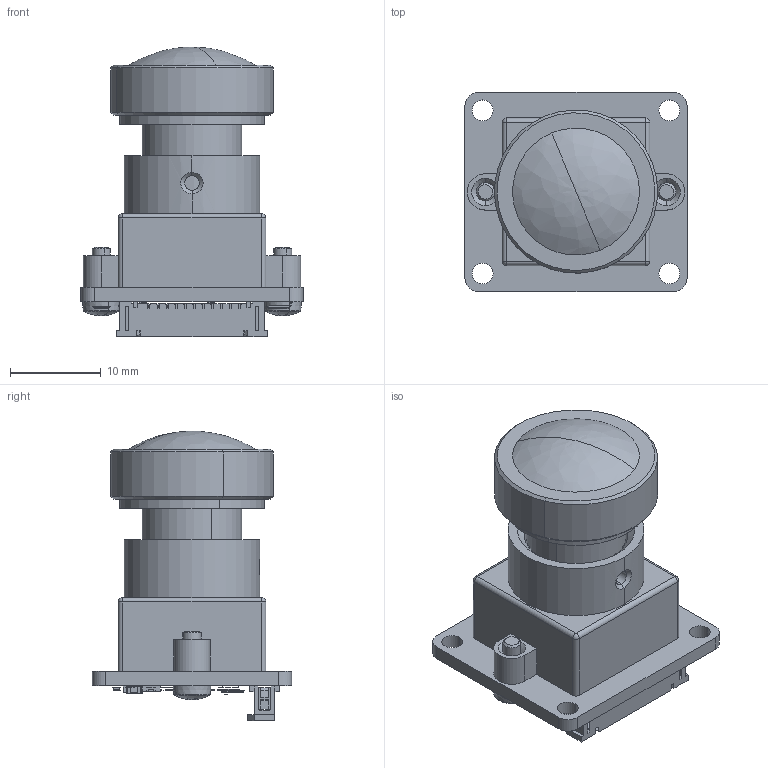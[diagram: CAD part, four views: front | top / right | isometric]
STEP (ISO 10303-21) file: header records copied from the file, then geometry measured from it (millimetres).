
FILE_DESCRIPTION((''),'2;1');
FILE_NAME('DS-CIMX415-22-39_LIGHT','2025-03-13T',('admin'),(''),'CREO PARAMETRIC BY PTC INC, 2017300','CREO PARAMETRIC BY PTC INC, 2017300','');
FILE_SCHEMA(('AUTOMOTIVE_DESIGN { 1 0 10303 214 1 1 1 1 }'));
Length unit declared in the file: millimetre
Products named in the file (1): DS-CIMX415-22-39_LIGHT
Bounding box: 24.5 x 22 x 31.96 mm (x, y, z)
Surface area: 3779.9 mm2 (no closed solid volume)
Topology: 0 solids, 216 shells, 484 faces, 1964 edges, 1678 vertices
Faces by surface type: plane 337, cylinder 89, bspline 28, cone 18, sphere 8, torus 4
Entity records: 25511 total; most frequent: CARTESIAN_POINT 6568, DIRECTION 3120, ORIENTED_EDGE 2400, EDGE_CURVE 1954, VERTEX_POINT 1678, VECTOR 1526, LINE 1526, AXIS2_PLACEMENT_3D 797
